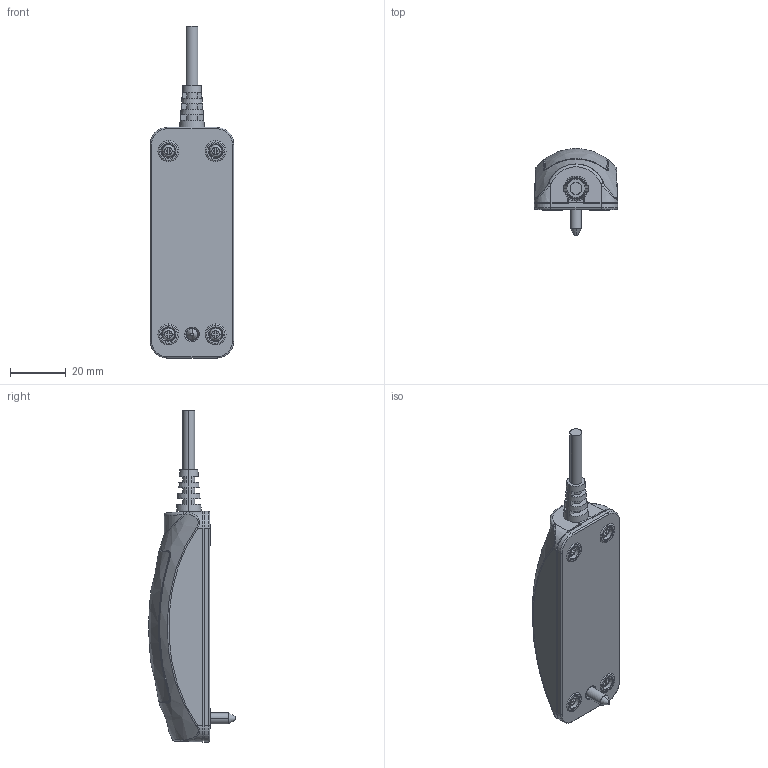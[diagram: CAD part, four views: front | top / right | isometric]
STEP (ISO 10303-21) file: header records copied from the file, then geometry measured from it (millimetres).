
FILE_DESCRIPTION((''),'2;1');
FILE_NAME('LED-','2019-08-01T',('USER'),(''),'PRO/ENGINEER BY PARAMETRIC TECHNOLOGY CORPORATION, 2008090','PRO/ENGINEER BY PARAMETRIC TECHNOLOGY CORPORATION, 2008090','');
FILE_SCHEMA(('CONFIG_CONTROL_DESIGN'));
Length unit declared in the file: millimetre
Products named in the file (1): LED-
Bounding box: 30 x 31.3 x 119.5 mm (x, y, z)
Volume: 21438 mm3; surface area: 23018.3 mm2
Topology: 1 solids, 12 shells, 733 faces, 2001 edges, 1305 vertices
Faces by surface type: plane 340, cylinder 166, cone 87, torus 66, bspline 62, extrusion 8, sphere 4
Entity records: 29207 total; most frequent: CARTESIAN_POINT 11056, ORIENTED_EDGE 3990, DIRECTION 3523, EDGE_CURVE 1995, VERTEX_POINT 1305, AXIS2_PLACEMENT_3D 1260, VECTOR 1003, LINE 995
